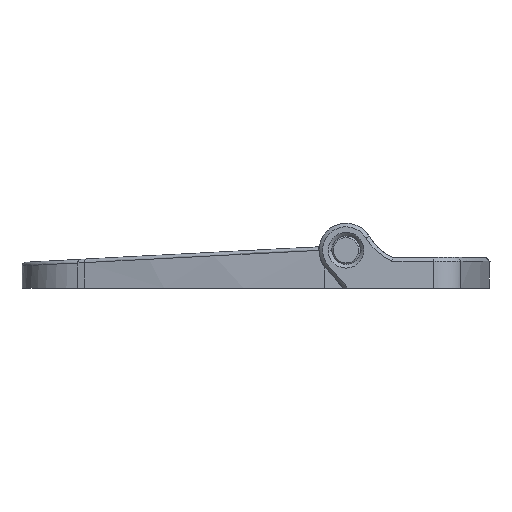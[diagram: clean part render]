
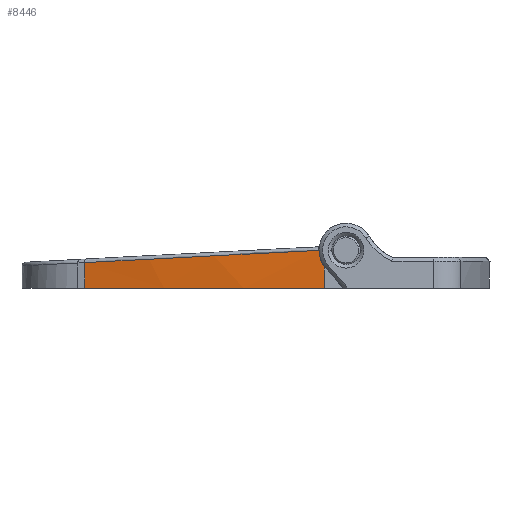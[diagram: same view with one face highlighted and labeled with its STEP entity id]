
A CAD part, top view. The second image highlights one B-rep face of the part: STEP entity #8446.
In plain terms, the highlighted cylindrical face has radius 355.666 mm (diameter 711.331 mm), a partial arc.
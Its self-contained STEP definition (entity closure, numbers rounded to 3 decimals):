
#83 = DIRECTION ( 'NONE',  ( 0., 1., 0. ) ) ;
#190 = CARTESIAN_POINT ( 'NONE',  ( -6.117, 2., 28.253 ) ) ;
#397 = VERTEX_POINT ( 'NONE', #190 ) ;
#506 = DIRECTION ( 'NONE',  ( 1., 0., 0. ) ) ;
#989 = AXIS2_PLACEMENT_3D ( 'NONE', #2333, #10162, #506 ) ;
#1347 = EDGE_LOOP ( 'NONE', ( #10520, #3784, #3027, #10299, #6423 ) ) ;
#1556 = VERTEX_POINT ( 'NONE', #7227 ) ;
#2156 = DIRECTION ( 'NONE',  ( 0., 0., -1. ) ) ;
#2189 = CARTESIAN_POINT ( 'NONE',  ( -72.534, 8.85, 19.936 ) ) ;
#2333 = CARTESIAN_POINT ( 'NONE',  ( 4.67, 8.85, -327.249 ) ) ;
#2955 = DIRECTION ( 'NONE',  ( 0., -1., 0. ) ) ;
#2997 = CARTESIAN_POINT ( 'NONE',  ( -6.117, -8.5, 28.253 ) ) ;
#3027 = ORIENTED_EDGE ( 'NONE', *, *, #4185, .T. ) ;
#3618 = VECTOR ( 'NONE', #2955, 1000. ) ;
#3784 = ORIENTED_EDGE ( 'NONE', *, *, #4755, .T. ) ;
#4131 = DIRECTION ( 'NONE',  ( 0., -1., 0. ) ) ;
#4185 = EDGE_CURVE ( 'NONE', #7571, #5016, #5917, .T. ) ;
#4745 = CARTESIAN_POINT ( 'NONE',  ( -51.214, -0.266, 24.677 ) ) ;
#4755 = EDGE_CURVE ( 'NONE', #1556, #7571, #6309, .T. ) ;
#4858 = CARTESIAN_POINT ( 'NONE',  ( -6.117, 8.85, 28.253 ) ) ;
#5016 = VERTEX_POINT ( 'NONE', #2997 ) ;
#5724 = AXIS2_PLACEMENT_3D ( 'NONE', #7670, #83, #5782 ) ;
#5782 = DIRECTION ( 'NONE',  ( 1., 0., 0. ) ) ;
#5917 = CIRCLE ( 'NONE', #5724, 355.666 ) ;
#6110 = LINE ( 'NONE', #4858, #3618 ) ;
#6192 = EDGE_CURVE ( 'NONE', #397, #10444, #7101, .T. ) ;
#6260 = CYLINDRICAL_SURFACE ( 'NONE', #989, 355.666 ) ;
#6309 = LINE ( 'NONE', #2189, #9954 ) ;
#6423 = ORIENTED_EDGE ( 'NONE', *, *, #6192, .T. ) ;
#6707 = CARTESIAN_POINT ( 'NONE',  ( -72.534, -8.5, 19.936 ) ) ;
#6828 =( BOUNDED_CURVE ( )  B_SPLINE_CURVE ( 3, ( #8469, #12320, #4745, #8409 ),
 .UNSPECIFIED., .F., .T. ) 
 B_SPLINE_CURVE_WITH_KNOTS ( ( 4, 4 ),
 ( 4.747, 4.931 ),
 .UNSPECIFIED. ) 
 CURVE ( )  GEOMETRIC_REPRESENTATION_ITEM ( )  RATIONAL_B_SPLINE_CURVE ( ( 1., 0.997, 0.997, 1. ) ) 
 REPRESENTATION_ITEM ( '' )  );
#7101 = CIRCLE ( 'NONE', #9908, 355.666 ) ;
#7227 = CARTESIAN_POINT ( 'NONE',  ( -72.534, -1.377, 19.936 ) ) ;
#7571 = VERTEX_POINT ( 'NONE', #6707 ) ;
#7670 = CARTESIAN_POINT ( 'NONE',  ( 4.67, -8.5, -327.249 ) ) ;
#7793 = CARTESIAN_POINT ( 'NONE',  ( -7.721, 2.001, 28.2 ) ) ;
#8409 = CARTESIAN_POINT ( 'NONE',  ( -72.534, -1.377, 19.936 ) ) ;
#8446 = ADVANCED_FACE ( 'NONE', ( #11053 ), #6260, .T. ) ;
#8469 = CARTESIAN_POINT ( 'NONE',  ( -7.721, 2.001, 28.2 ) ) ;
#8606 = EDGE_CURVE ( 'NONE', #10444, #1556, #6828, .T. ) ;
#9084 = DIRECTION ( 'NONE',  ( 0., -1., 0. ) ) ;
#9908 = AXIS2_PLACEMENT_3D ( 'NONE', #10042, #4131, #2156 ) ;
#9954 = VECTOR ( 'NONE', #9084, 1000. ) ;
#10042 = CARTESIAN_POINT ( 'NONE',  ( 4.67, 2., -327.249 ) ) ;
#10162 = DIRECTION ( 'NONE',  ( 0., -1., 0. ) ) ;
#10299 = ORIENTED_EDGE ( 'NONE', *, *, #11964, .F. ) ;
#10444 = VERTEX_POINT ( 'NONE', #7793 ) ;
#10520 = ORIENTED_EDGE ( 'NONE', *, *, #8606, .T. ) ;
#11053 = FACE_OUTER_BOUND ( 'NONE', #1347, .T. ) ;
#11964 = EDGE_CURVE ( 'NONE', #397, #5016, #6110, .T. ) ;
#12320 = CARTESIAN_POINT ( 'NONE',  ( -29.549, 0.864, 27.439 ) ) ;
